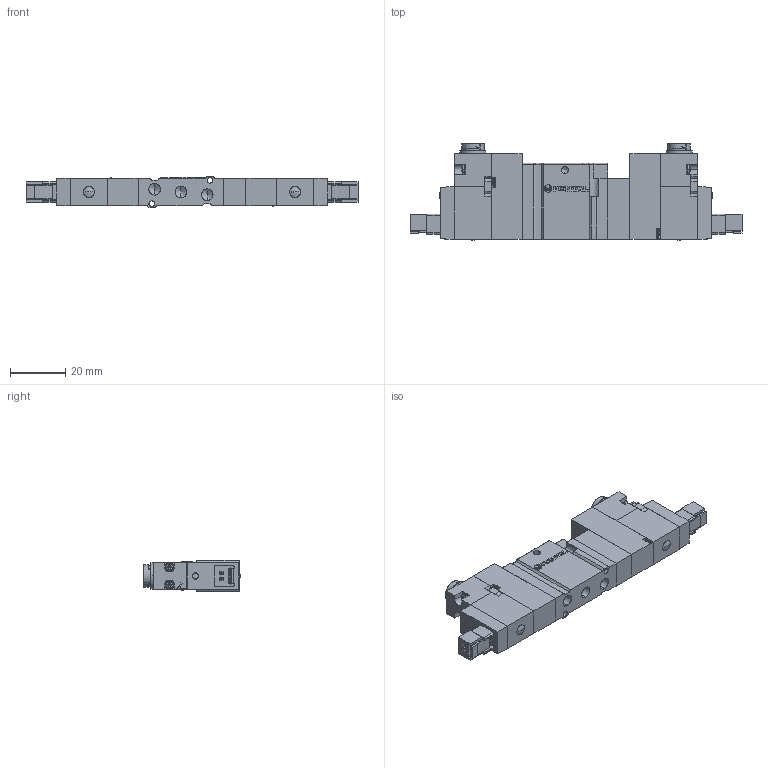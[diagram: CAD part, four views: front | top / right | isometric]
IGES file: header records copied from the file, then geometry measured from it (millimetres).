
Start section: SolidWorks IGES file using analytic representation for surfaces
Global section: file name: D:\Custom\3D繪製\ADEX\A05RS25\A05RD35#-#-#-E.IGS,1; native system: 5HSolidWorks 2014; preprocessor: SolidWorks 2014; author: Chieh_Lu; date: 150725.204459; units: millimetre
Bounding box: 120 x 35 x 11.4 mm (x, y, z)
Surface area: 17329.8 mm2 (no closed solid volume)
Topology: 0 solids, 0 shells, 1009 faces, 8338 edges, 8302 vertices
Faces by surface type: bspline 699, revolution 310
